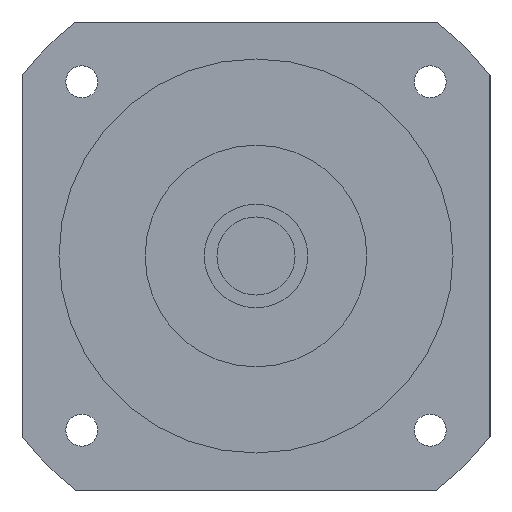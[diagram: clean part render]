
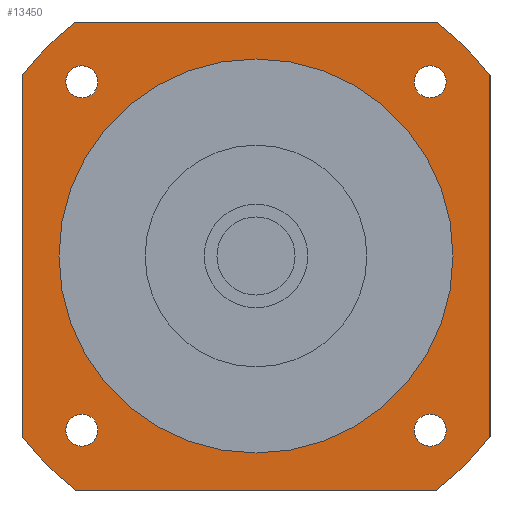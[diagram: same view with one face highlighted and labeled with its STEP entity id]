
A CAD part, left-side view. The second image highlights one B-rep face of the part: STEP entity #13450.
In plain terms, the highlighted planar face has unit normal (-1, 0, 0) as drawn and (0, 0, -1) by its records, which use the part's own axes.
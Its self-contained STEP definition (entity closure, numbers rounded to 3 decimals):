
#8640=CARTESIAN_POINT('',(47.5,36.657,-43.2));
#8650=VERTEX_POINT('',#8640);
#8700=CARTESIAN_POINT('',(47.5,47.5,-43.2));
#8710=DIRECTION('',(0.,-1.,0.));
#8720=VECTOR('',#8710,1000.);
#8730=LINE('',#8700,#8720);
#8740=CARTESIAN_POINT('',(47.5,-36.657,-43.2));
#8750=VERTEX_POINT('',#8740);
#8760=EDGE_CURVE('',#8650,#8750,#8730,.T.);
#9040=CARTESIAN_POINT('',(-36.657,47.5,-43.2));
#9050=VERTEX_POINT('',#9040);
#9230=CARTESIAN_POINT('',(-47.5,36.657,-43.2));
#9240=VERTEX_POINT('',#9230);
#9270=CARTESIAN_POINT('',(0.,0.,
-43.2));
#9280=DIRECTION('',(0.,0.,-1.));
#9290=DIRECTION('',(1.,0.,0.));
#9300=AXIS2_PLACEMENT_3D('',#9270,#9280,#9290);
#9310=CIRCLE('',#9300,60.);
#9320=EDGE_CURVE('',#9240,#9050,#9310,.T.);
#11970=CARTESIAN_POINT('',(-32.105,35.355,-43.2));
#11980=VERTEX_POINT('',#11970);
#12010=CARTESIAN_POINT('',(-35.355,35.355,-43.2));
#12020=DIRECTION('',(0.,0.,-1.));
#12030=DIRECTION('',(-1.,0.,0.));
#12040=AXIS2_PLACEMENT_3D('',#12010,#12020,#12030);
#12050=CIRCLE('',#12040,3.25);
#12060=CARTESIAN_POINT('',(-38.605,35.355,-43.2));
#12070=VERTEX_POINT('',#12060);
#12080=EDGE_CURVE('',#12070,#11980,#12050,.T.);
#12200=CARTESIAN_POINT('',(47.5,47.5,-43.2));
#12210=DIRECTION('',(0.,0.,-1.));
#12220=DIRECTION('',(1.,0.,0.));
#12230=AXIS2_PLACEMENT_3D('',#12200,#12210,#12220);
#12240=PLANE('',#12230);
#12250=ORIENTED_EDGE('',*,*,#12080,.F.);
#12260=EDGE_CURVE('',#11980,#12070,#12050,.T.);
#12270=ORIENTED_EDGE('',*,*,#12260,.F.);
#12280=EDGE_LOOP('',(#12270,#12250));
#12290=FACE_BOUND('',#12280,.T.);
#12300=CARTESIAN_POINT('',(35.355,35.355,-43.2));
#12310=DIRECTION('',(0.,0.,-1.));
#12320=DIRECTION('',(0.,1.,0.));
#12330=AXIS2_PLACEMENT_3D('',#12300,#12310,#12320);
#12340=CIRCLE('',#12330,3.25);
#12350=CARTESIAN_POINT('',(35.355,38.605,-43.2));
#12360=VERTEX_POINT('',#12350);
#12370=CARTESIAN_POINT('',(35.355,32.105,-43.2));
#12380=VERTEX_POINT('',#12370);
#12390=EDGE_CURVE('',#12360,#12380,#12340,.T.);
#12400=ORIENTED_EDGE('',*,*,#12390,.F.);
#12410=EDGE_CURVE('',#12380,#12360,#12340,.T.);
#12420=ORIENTED_EDGE('',*,*,#12410,.F.);
#12430=EDGE_LOOP('',(#12420,#12400));
#12440=FACE_BOUND('',#12430,.T.);
#12450=CARTESIAN_POINT('',(0.,0.,
-43.2));
#12460=DIRECTION('',(0.,0.,1.));
#12470=DIRECTION('',(0.,1.,0.));
#12480=AXIS2_PLACEMENT_3D('',#12450,#12460,#12470);
#12490=CIRCLE('',#12480,40.);
#12500=CARTESIAN_POINT('',(-40.,0.,-43.2));
#12510=VERTEX_POINT('',#12500);
#12520=CARTESIAN_POINT('',(40.,0.,-43.2));
#12530=VERTEX_POINT('',#12520);
#12540=EDGE_CURVE('',#12510,#12530,#12490,.T.);
#12550=ORIENTED_EDGE('',*,*,#12540,.T.);
#12560=CARTESIAN_POINT('',(0.,40.,-43.2));
#12570=VERTEX_POINT('',#12560);
#12580=EDGE_CURVE('',#12570,#12510,#12490,.T.);
#12590=ORIENTED_EDGE('',*,*,#12580,.T.);
#12600=EDGE_CURVE('',#12530,#12570,#12490,.T.);
#12610=ORIENTED_EDGE('',*,*,#12600,.T.);
#12620=EDGE_LOOP('',(#12610,#12590,#12550));
#12630=FACE_BOUND('',#12620,.T.);
#12640=CARTESIAN_POINT('',(35.355,-35.355,-43.2));
#12650=DIRECTION('',(0.,0.,-1.));
#12660=DIRECTION('',(1.,0.,0.));
#12670=AXIS2_PLACEMENT_3D('',#12640,#12650,#12660);
#12680=CIRCLE('',#12670,3.25);
#12690=CARTESIAN_POINT('',(38.605,-35.355,-43.2));
#12700=VERTEX_POINT('',#12690);
#12710=CARTESIAN_POINT('',(32.105,-35.355,-43.2));
#12720=VERTEX_POINT('',#12710);
#12730=EDGE_CURVE('',#12700,#12720,#12680,.T.);
#12740=ORIENTED_EDGE('',*,*,#12730,.F.);
#12750=EDGE_CURVE('',#12720,#12700,#12680,.T.);
#12760=ORIENTED_EDGE('',*,*,#12750,.F.);
#12770=EDGE_LOOP('',(#12760,#12740));
#12780=FACE_BOUND('',#12770,.T.);
#12790=CARTESIAN_POINT('',(-35.355,-35.355,-43.2));
#12800=DIRECTION('',(0.,0.,-1.));
#12810=DIRECTION('',(0.,-1.,0.));
#12820=AXIS2_PLACEMENT_3D('',#12790,#12800,#12810);
#12830=CIRCLE('',#12820,3.25);
#12840=CARTESIAN_POINT('',(-35.355,-38.605,-43.2));
#12850=VERTEX_POINT('',#12840);
#12860=CARTESIAN_POINT('',(-35.355,-32.105,-43.2));
#12870=VERTEX_POINT('',#12860);
#12880=EDGE_CURVE('',#12850,#12870,#12830,.T.);
#12890=ORIENTED_EDGE('',*,*,#12880,.F.);
#12900=EDGE_CURVE('',#12870,#12850,#12830,.T.);
#12910=ORIENTED_EDGE('',*,*,#12900,.F.);
#12920=EDGE_LOOP('',(#12910,#12890));
#12930=FACE_BOUND('',#12920,.T.);
#12940=CARTESIAN_POINT('',(-47.5,47.5,-43.2));
#12950=DIRECTION('',(1.,0.,0.));
#12960=VECTOR('',#12950,1000.);
#12970=LINE('',#12940,#12960);
#12980=CARTESIAN_POINT('',(36.657,47.5,-43.2));
#12990=VERTEX_POINT('',#12980);
#13000=EDGE_CURVE('',#9050,#12990,#12970,.T.);
#13010=ORIENTED_EDGE('',*,*,#13000,.T.);
#13020=ORIENTED_EDGE('',*,*,#9320,.T.);
#13030=CARTESIAN_POINT('',(-47.5,-47.5,-43.2));
#13040=DIRECTION('',(0.,1.,0.));
#13050=VECTOR('',#13040,1000.);
#13060=LINE('',#13030,#13050);
#13070=CARTESIAN_POINT('',(-47.5,-36.657,-43.2));
#13080=VERTEX_POINT('',#13070);
#13090=EDGE_CURVE('',#13080,#9240,#13060,.T.);
#13100=ORIENTED_EDGE('',*,*,#13090,.T.);
#13110=CARTESIAN_POINT('',(0.,0.,
-43.2));
#13120=DIRECTION('',(0.,0.,-1.));
#13130=DIRECTION('',(1.,0.,0.));
#13140=AXIS2_PLACEMENT_3D('',#13110,#13120,#13130);
#13150=CIRCLE('',#13140,60.);
#13160=CARTESIAN_POINT('',(-36.657,-47.5,-43.2));
#13170=VERTEX_POINT('',#13160);
#13180=EDGE_CURVE('',#13170,#13080,#13150,.T.);
#13190=ORIENTED_EDGE('',*,*,#13180,.T.);
#13200=CARTESIAN_POINT('',(47.5,-47.5,-43.2));
#13210=DIRECTION('',(-1.,0.,0.));
#13220=VECTOR('',#13210,1000.);
#13230=LINE('',#13200,#13220);
#13240=CARTESIAN_POINT('',(36.657,-47.5,-43.2));
#13250=VERTEX_POINT('',#13240);
#13260=EDGE_CURVE('',#13250,#13170,#13230,.T.);
#13270=ORIENTED_EDGE('',*,*,#13260,.T.);
#13280=CARTESIAN_POINT('',(0.,0.,
-43.2));
#13290=DIRECTION('',(0.,0.,-1.));
#13300=DIRECTION('',(1.,0.,0.));
#13310=AXIS2_PLACEMENT_3D('',#13280,#13290,#13300);
#13320=CIRCLE('',#13310,60.);
#13330=EDGE_CURVE('',#8750,#13250,#13320,.T.);
#13340=ORIENTED_EDGE('',*,*,#13330,.T.);
#13350=ORIENTED_EDGE('',*,*,#8760,.T.);
#13360=CARTESIAN_POINT('',(0.,0.,
-43.2));
#13370=DIRECTION('',(0.,0.,-1.));
#13380=DIRECTION('',(1.,0.,0.));
#13390=AXIS2_PLACEMENT_3D('',#13360,#13370,#13380);
#13400=CIRCLE('',#13390,60.);
#13410=EDGE_CURVE('',#12990,#8650,#13400,.T.);
#13420=ORIENTED_EDGE('',*,*,#13410,.T.);
#13430=EDGE_LOOP('',(#13420,#13350,#13340,#13270,#13190,#13100,#13020,
#13010));
#13440=FACE_OUTER_BOUND('',#13430,.T.);
#13450=ADVANCED_FACE('',(#12290,#12440,#12630,#12780,#12930,#13440),
#12240,.T.);
